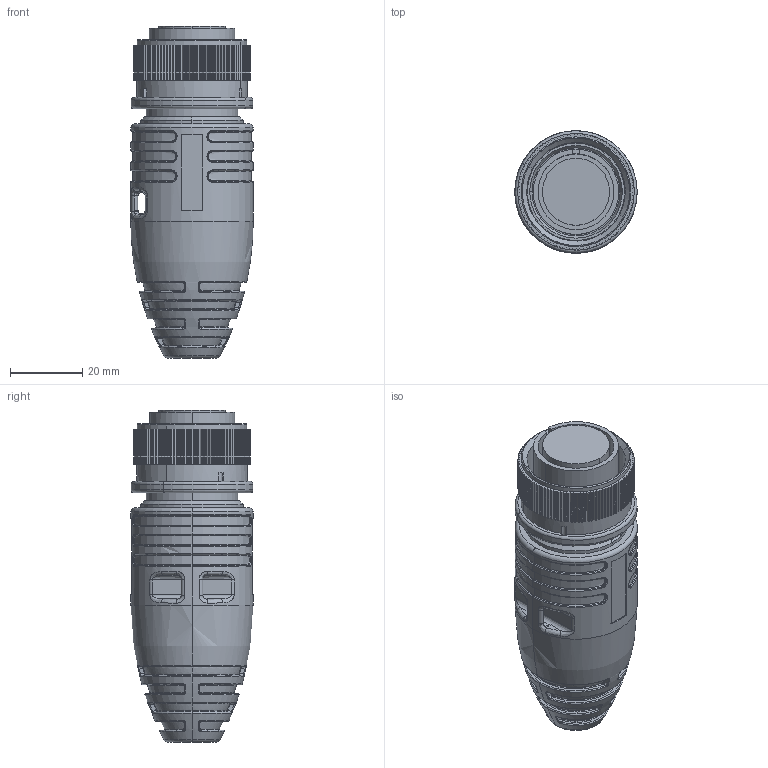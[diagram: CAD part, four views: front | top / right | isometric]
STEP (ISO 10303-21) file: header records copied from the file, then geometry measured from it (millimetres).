
FILE_DESCRIPTION (( 'STEP AP203' ), '1' );
FILE_NAME ('MS3106M-18-S-New_Moldbody.step', '2018-02-12T17:07:48', ( '' ), ( '' ), 'SwSTEP 2.0', 'SolidWorks 2015', '' );
FILE_SCHEMA (( 'CONFIG_CONTROL_DESIGN' ));
Length unit declared in the file: millimetre
Products named in the file (2): MS3106M-18-S-New_Moldbody
Bounding box: 34 x 34 x 92.2 mm (x, y, z)
Volume: 61325.2 mm3; surface area: 18291.7 mm2
Topology: 1 solids, 1 shells, 809 faces, 2072 edges, 1275 vertices
Faces by surface type: plane 276, cylinder 219, bspline 168, torus 132, cone 14
Entity records: 29878 total; most frequent: CARTESIAN_POINT 10896, ORIENTED_EDGE 4136, DIRECTION 3807, EDGE_CURVE 2068, AXIS2_PLACEMENT_3D 1446, VERTEX_POINT 1275, VECTOR 915, LINE 915
